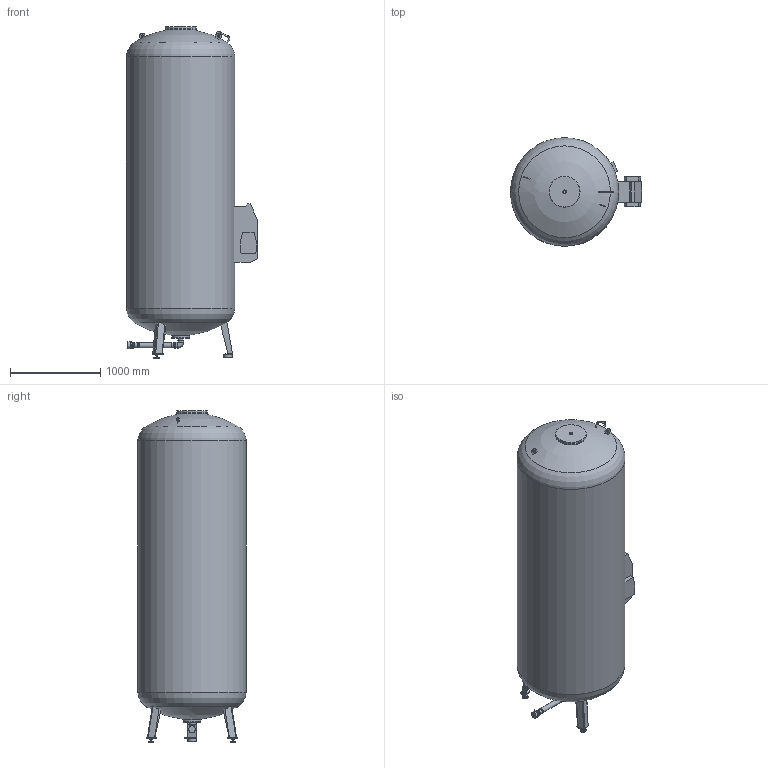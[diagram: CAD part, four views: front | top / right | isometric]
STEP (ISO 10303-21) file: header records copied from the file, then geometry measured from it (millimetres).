
FILE_DESCRIPTION(/* description */ (''),/* implementation_level */ '2;1');
FILE_NAME(/* name */ '\\DATASERVER\data\Flamco\3D-Modellen\Inventor\Flamcomat\2021_Flamcomat MK-U G4\flamcomat_mk-u_g4_3500_10.stp',/* time_stamp */ '2021-11-29T10:56:07+01:00',/* author */ ('kasius'),/* organization */ (''),/* preprocessor_version */ 'ST-DEVELOPER v17',/* originating_system */ 'Autodesk Inventor 2018',/* authorisation */ '');
FILE_SCHEMA (('AUTOMOTIVE_DESIGN { 1 0 10303 214 3 1 1 }'));
Length unit declared in the file: millimetre
Products named in the file (1): flamcomat_mk-u_g4_3500_10
Bounding box: 1453.04 x 1200 x 3680.5 mm (x, y, z)
Volume: 3654728331.8 mm3; surface area: 14962349.7 mm2
Topology: 5 solids, 5 shells, 289 faces, 767 edges, 521 vertices
Faces by surface type: plane 163, cone 63, cylinder 55, torus 4, bspline 2, sphere 2
Full cylindrical faces by diameter (mm): 16 x5, 20 x2, 24 x2, 33 x2, 38.75 x1, 47.67 x1, 52.97 x1, 53.97 x1, 56.07 x1, 57.97 x1, 58.97 x1, 59.97 x1, 60.3 x1, 65 x4, 68.51 x1, 71 x1, 75 x1, 90 x1, 162 x1, 198 x2, 306 x1, 342 x2, 1200 x1
Entity records: 9450 total; most frequent: CARTESIAN_POINT 1871, DIRECTION 1577, ORIENTED_EDGE 1534, EDGE_CURVE 767, AXIS2_PLACEMENT_3D 588, VERTEX_POINT 521, LINE 401, VECTOR 401
